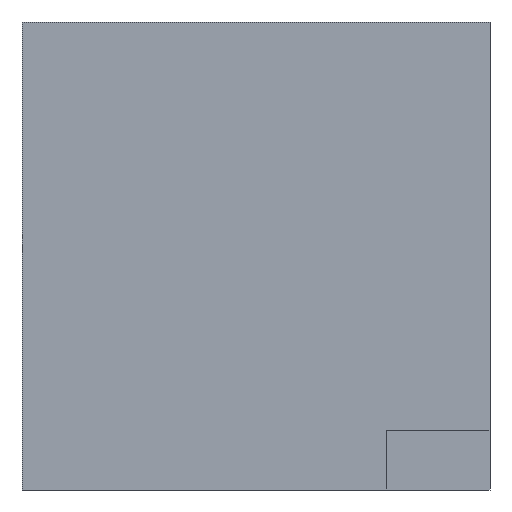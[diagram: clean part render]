
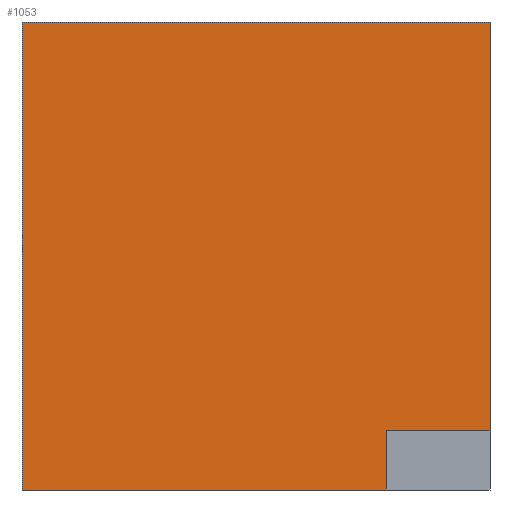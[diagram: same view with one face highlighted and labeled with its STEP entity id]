
A CAD part, left-side view. The second image highlights one B-rep face of the part: STEP entity #1053.
In plain terms, the highlighted planar face has unit normal (-1, 0, 0).
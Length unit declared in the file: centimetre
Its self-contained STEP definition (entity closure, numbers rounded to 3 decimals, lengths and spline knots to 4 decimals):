
#10 = DIRECTION ( 'NONE',  ( 0., 0., -1. ) ) ;
#27 = DIRECTION ( 'NONE',  ( 0., -1., 0. ) ) ;
#28 = CARTESIAN_POINT ( 'NONE',  ( 0., 0., 1000. ) ) ;
#32 = DIRECTION ( 'NONE',  ( 0., -1., 0. ) ) ;
#41 = CARTESIAN_POINT ( 'NONE',  ( 0., 1000., 0. ) ) ;
#61 = EDGE_CURVE ( 'NONE', #715, #829, #295, .T. ) ;
#72 = EDGE_CURVE ( 'NONE', #748, #715, #316, .T. ) ;
#100 = DIRECTION ( 'NONE',  ( 1., 0., 0. ) ) ;
#103 = VERTEX_POINT ( 'NONE', #41 ) ;
#118 = DIRECTION ( 'NONE',  ( 0., 1., 0. ) ) ;
#130 = VERTEX_POINT ( 'NONE', #28 ) ;
#143 = VERTEX_POINT ( 'NONE', #1090 ) ;
#151 = CARTESIAN_POINT ( 'NONE',  ( 0., 221.9868, 126.1784 ) ) ;
#166 = ORIENTED_EDGE ( 'NONE', *, *, #699, .F. ) ;
#167 = DIRECTION ( 'NONE',  ( 0., 0., -1. ) ) ;
#259 = EDGE_CURVE ( 'NONE', #143, #103, #446, .T. ) ;
#262 = CARTESIAN_POINT ( 'NONE',  ( 0., 0., 1000. ) ) ;
#279 = LINE ( 'NONE', #262, #1132 ) ;
#288 = LINE ( 'NONE', #648, #675 ) ;
#295 = LINE ( 'NONE', #840, #543 ) ;
#316 = LINE ( 'NONE', #857, #911 ) ;
#352 = EDGE_LOOP ( 'NONE', ( #994, #691, #1092, #736, #166, #851 ) ) ;
#360 = FACE_OUTER_BOUND ( 'NONE', #352, .T. ) ;
#392 = LINE ( 'NONE', #733, #693 ) ;
#446 = LINE ( 'NONE', #716, #1142 ) ;
#459 = CARTESIAN_POINT ( 'NONE',  ( 0., 221.9868, 0. ) ) ;
#497 = DIRECTION ( 'NONE',  ( 0., 0., -1. ) ) ;
#543 = VECTOR ( 'NONE', #497, 100. ) ;
#593 = AXIS2_PLACEMENT_3D ( 'NONE', #891, #100, #167 ) ;
#631 = DIRECTION ( 'NONE',  ( 0., 0., -1. ) ) ;
#648 = CARTESIAN_POINT ( 'NONE',  ( 0., 1000., 1000. ) ) ;
#674 = CARTESIAN_POINT ( 'NONE',  ( 0., 0., 126.1784 ) ) ;
#675 = VECTOR ( 'NONE', #27, 100. ) ;
#691 = ORIENTED_EDGE ( 'NONE', *, *, #61, .F. ) ;
#693 = VECTOR ( 'NONE', #32, 100. ) ;
#699 = EDGE_CURVE ( 'NONE', #143, #130, #288, .T. ) ;
#715 = VERTEX_POINT ( 'NONE', #151 ) ;
#716 = CARTESIAN_POINT ( 'NONE',  ( 0., 1000., 1000. ) ) ;
#733 = CARTESIAN_POINT ( 'NONE',  ( 0., 1000., 0. ) ) ;
#736 = ORIENTED_EDGE ( 'NONE', *, *, #1068, .F. ) ;
#748 = VERTEX_POINT ( 'NONE', #674 ) ;
#796 = PLANE ( 'NONE',  #593 ) ;
#829 = VERTEX_POINT ( 'NONE', #459 ) ;
#840 = CARTESIAN_POINT ( 'NONE',  ( 0., 221.9868, 0. ) ) ;
#851 = ORIENTED_EDGE ( 'NONE', *, *, #259, .T. ) ;
#853 = EDGE_CURVE ( 'NONE', #103, #829, #392, .T. ) ;
#857 = CARTESIAN_POINT ( 'NONE',  ( 0., 0., 126.1784 ) ) ;
#891 = CARTESIAN_POINT ( 'NONE',  ( 0., 1000., 1000. ) ) ;
#911 = VECTOR ( 'NONE', #118, 100. ) ;
#994 = ORIENTED_EDGE ( 'NONE', *, *, #853, .T. ) ;
#1053 = ADVANCED_FACE ( 'NONE', ( #360 ), #796, .F. ) ;
#1068 = EDGE_CURVE ( 'NONE', #130, #748, #279, .T. ) ;
#1090 = CARTESIAN_POINT ( 'NONE',  ( 0., 1000., 1000. ) ) ;
#1092 = ORIENTED_EDGE ( 'NONE', *, *, #72, .F. ) ;
#1132 = VECTOR ( 'NONE', #631, 100. ) ;
#1142 = VECTOR ( 'NONE', #10, 100. ) ;
